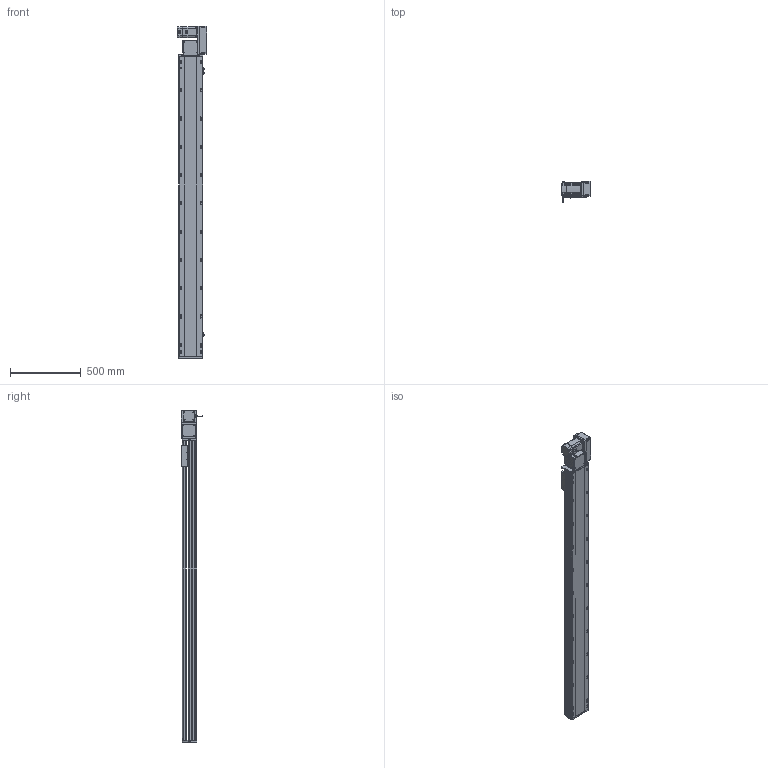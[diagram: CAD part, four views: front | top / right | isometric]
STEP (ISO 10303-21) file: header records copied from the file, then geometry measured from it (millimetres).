
FILE_DESCRIPTION (( 'STEP AP214' ), '1' );
FILE_NAME ('RTB17S-XX-1850-R-M75-C4.STEP', '2025-12-12T01:40:18', ( '' ), ( '' ), 'SwSTEP 2.0', 'SolidWorks 2018', '' );
FILE_SCHEMA (( 'AUTOMOTIVE_DESIGN' ));
Length unit declared in the file: millimetre
Products named in the file (15): RTB17S-XX-1850-R-M75-C4; RTH13-BL-012覜茼え俋离^RTB17S-賑釱_RTB17S-XX-XX-R-M75-C4; RTB17S-L-004-賑釱^RTB17S-賑釱_RTB17S-XX-XX-R-M75-C4; RTB17-R-011菁釱^RTB17S-XX-XX-R-M75-C4; RTB17S-L-014-T20-P75--々湍釱^RTB17S-R-々湍釱蚾饜-750W_RTB17S-XX-XX-R-M75-C4; RTB17S-L-007奻裔^RTB17S-XX-XX-R-M75-C4; RTB17S-R-々湍釱蚾饜-750W^RTB17S-XX-XX-R-M75-C4; EE672^RTB17S-XX-XX-R-M75-C4; RTB22S-GY-018P^RTB17S-R-々湍釱蚾饜-750W_RTB17S-XX-XX-R-M75-C4; RTB17S-賑釱^RTB17S-XX-XX-R-M75-C4; RTB22S-GY-008-M75--萇儂啣^RTB17S-R-々湍釱蚾饜-750W_RTB17S-XX-XX-R-M75-C4; 750W萇儂^RTB17S-XX-XX-R-M75-C4; RTB22S-GY-005P^RTB17S-R-々湍釱蚾饜-750W_RTB17S-XX-XX-R-M75-C4; RTB17S-L-001-耜醱啣^RTB17S-XX-XX-R-M75-C4; RTB22S-GY-017P^RTB17S-R-々湍釱蚾饜-750W_RTB17S-XX-XX-R-M75-C4
Assembly tree (17 placements, depth 3):
  RTB17S-XX-1850-R-M75-C4
    RTB17-R-011菁釱^RTB17S-XX-XX-R-M75-C4
    EE672^RTB17S-XX-XX-R-M75-C4  x3
    RTB17S-L-001-耜醱啣^RTB17S-XX-XX-R-M75-C4
    RTB17S-賑釱^RTB17S-XX-XX-R-M75-C4
      RTB17S-L-004-賑釱^RTB17S-賑釱_RTB17S-XX-XX-R-M75-C4
      RTH13-BL-012覜茼え俋离^RTB17S-賑釱_RTB17S-XX-XX-R-M75-C4
    RTB17S-L-007奻裔^RTB17S-XX-XX-R-M75-C4
    750W萇儂^RTB17S-XX-XX-R-M75-C4
    RTB17S-R-々湍釱蚾饜-750W^RTB17S-XX-XX-R-M75-C4
      RTB17S-L-014-T20-P75--々湍釱^RTB17S-R-々湍釱蚾饜-750W_RTB17S-XX-XX-R-M75-C4
      RTB22S-GY-005P^RTB17S-R-々湍釱蚾饜-750W_RTB17S-XX-XX-R-M75-C4
      RTB22S-GY-017P^RTB17S-R-々湍釱蚾饜-750W_RTB17S-XX-XX-R-M75-C4  x2
      RTB22S-GY-008-M75--萇儂啣^RTB17S-R-々湍釱蚾饜-750W_RTB17S-XX-XX-R-M75-C4
      RTB22S-GY-018P^RTB17S-R-々湍釱蚾饜-750W_RTB17S-XX-XX-R-M75-C4
Bounding box: 207.4 x 152.7 x 2349 mm (x, y, z)
Volume: 17509381.9 mm3; surface area: 3116797.5 mm2
Topology: 17 solids, 17 shells, 2169 faces, 6052 edges, 3914 vertices
Faces by surface type: plane 980, cylinder 773, bspline 294, cone 110, sphere 8, torus 4
Entity records: 61942 total; most frequent: CARTESIAN_POINT 18316, ORIENTED_EDGE 8948, DIRECTION 8312, EDGE_CURVE 4474, AXIS2_PLACEMENT_3D 2934, VERTEX_POINT 2918, LINE 2444, VECTOR 2444
